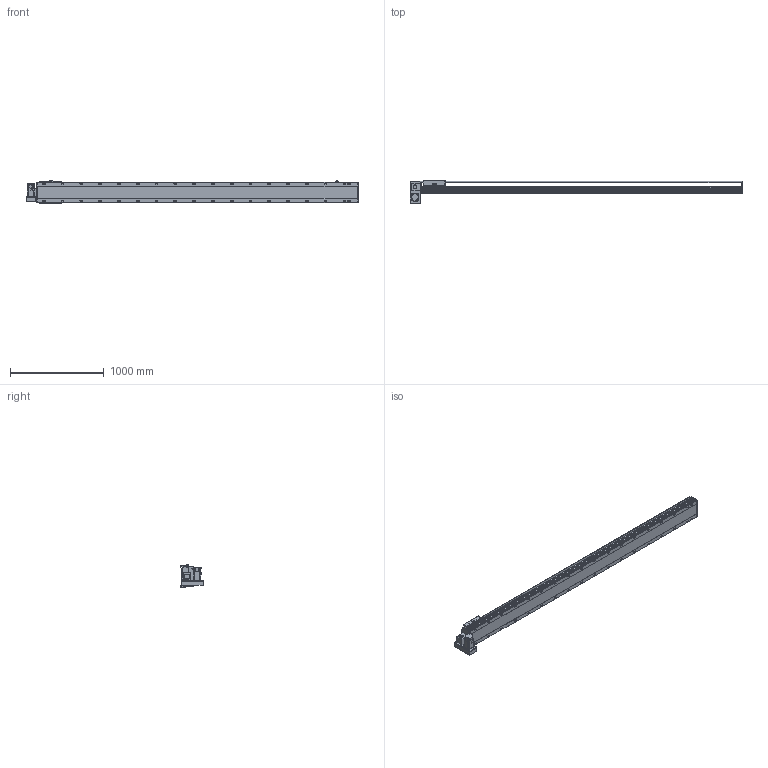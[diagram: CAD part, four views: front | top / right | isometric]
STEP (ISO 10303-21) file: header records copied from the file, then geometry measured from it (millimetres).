
FILE_DESCRIPTION(/* description */ ('STEP AP214'),/* implementation_level */ '2;1');
FILE_NAME(/* name */ 'PBS220-P40-S3050-LD-T75-C1-N(0)',/* time_stamp */ '2022-06-27T09:47:08+02:00',/* author */ ('License CC BY-ND 4.0'),/* organization */ ('CADENAS'),/* preprocessor_version */ 'ST-DEVELOPER v18.102',/* originating_system */ 'PARTsolutions',/* authorisation */ ' ');
FILE_SCHEMA (('AUTOMOTIVE_DESIGN {1 0 10303 214 3 1 1}'));
Length unit declared in the file: millimetre
Products named in the file (7): PBS220-P40-S3050-LD-T75-C1-N(0); PBS220_sensor; PBS220_plant; PBS220_sliser; T75-p1; PBS220T-LD_motors; PBS220-S3050()_body
Assembly tree (8 placements, depth 2):
  PBS220-P40-S3050-LD-T75-C1-N(0)
    PBS220_sensor  x3
    PBS220_plant
    PBS220_sliser
    T75-p1
    PBS220T-LD_motors
    PBS220-S3050()_body
Bounding box: 3534 x 239 x 238.5 mm (x, y, z)
Volume: 49059410.1 mm3; surface area: 4451685.9 mm2
Topology: 8 solids, 8 shells, 1034 faces, 2676 edges, 1738 vertices
Faces by surface type: plane 638, cylinder 336, cone 60
Full cylindrical faces by diameter (mm): 2.013 x4, 4.5 x14, 4.917 x4, 6 x7, 6.647 x8, 8 x10, 8.376 x36, 8.5 x36, 10 x6, 14 x36, 38 x2, 40 x1, 70 x1
Entity records: 28748 total; most frequent: CARTESIAN_POINT 5152, DIRECTION 4995, ORIENTED_EDGE 4466, EDGE_CURVE 2233, AXIS2_PLACEMENT_3D 1815, VERTEX_POINT 1576, EDGE_LOOP 1389, FACE_BOUND 1389
